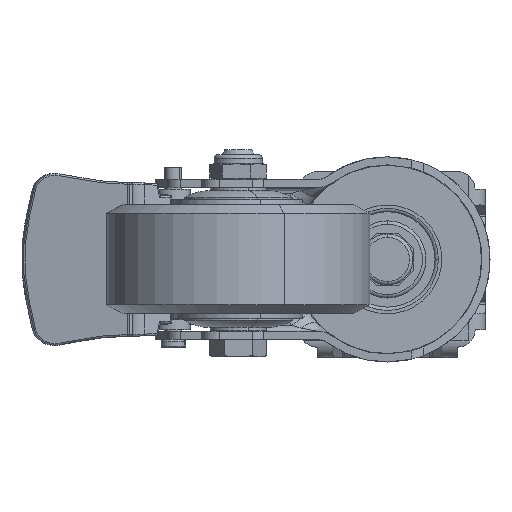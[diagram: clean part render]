
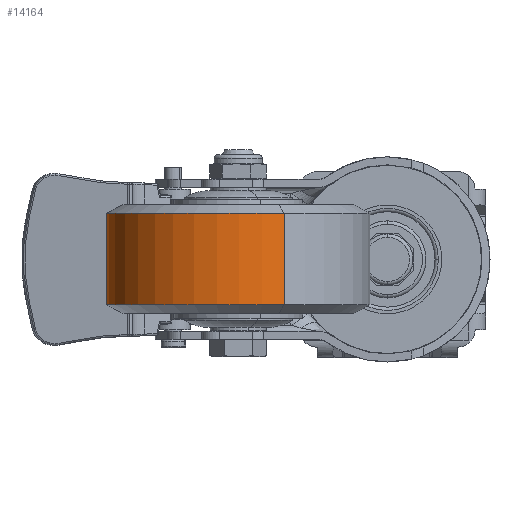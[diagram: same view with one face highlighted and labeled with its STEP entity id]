
A CAD part, front view. The second image highlights one B-rep face of the part: STEP entity #14164.
In plain terms, the highlighted cylindrical face has radius 37.5 mm (diameter 75 mm), a partial arc.
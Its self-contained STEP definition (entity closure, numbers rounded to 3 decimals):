
#1883 = VERTEX_POINT ( 'NONE', #31630 ) ;
#3849 = DIRECTION ( 'NONE',  ( -1., 0., 0. ) ) ;
#3943 = DIRECTION ( 'NONE',  ( 1., 0., 0. ) ) ;
#5288 = FACE_OUTER_BOUND ( 'NONE', #10411, .T. ) ;
#5924 = CARTESIAN_POINT ( 'NONE',  ( -13., 0., 0. ) ) ;
#7705 = ORIENTED_EDGE ( 'NONE', *, *, #41469, .T. ) ;
#10411 = EDGE_LOOP ( 'NONE', ( #38320, #35748, #7705, #40084 ) ) ;
#10677 = DIRECTION ( 'NONE',  ( -1., 0., 0. ) ) ;
#11824 = AXIS2_PLACEMENT_3D ( 'NONE', #16874, #46466, #12210 ) ;
#11934 = VERTEX_POINT ( 'NONE', #27823 ) ;
#12210 = DIRECTION ( 'NONE',  ( 0., 0., -1. ) ) ;
#14164 = ADVANCED_FACE ( 'NONE', ( #5288 ), #20828, .T. ) ;
#16874 = CARTESIAN_POINT ( 'NONE',  ( 0., 0., 0. ) ) ;
#17123 = VECTOR ( 'NONE', #10677, 1000. ) ;
#18752 = DIRECTION ( 'NONE',  ( 0., 0., -1. ) ) ;
#20828 = CYLINDRICAL_SURFACE ( 'NONE', #11824, 37.5 ) ;
#20982 = DIRECTION ( 'NONE',  ( 0., 0., -1. ) ) ;
#21005 = AXIS2_PLACEMENT_3D ( 'NONE', #21710, #3943, #18752 ) ;
#21710 = CARTESIAN_POINT ( 'NONE',  ( 13., 0., 0. ) ) ;
#21863 = CARTESIAN_POINT ( 'NONE',  ( 0., 0., -37.5 ) ) ;
#22385 = CARTESIAN_POINT ( 'NONE',  ( 13., 0., -37.5 ) ) ;
#22542 = CIRCLE ( 'NONE', #21005, 37.5 ) ;
#22545 = EDGE_CURVE ( 'NONE', #1883, #11934, #41954, .T. ) ;
#24428 = DIRECTION ( 'NONE',  ( 1., 0., 0. ) ) ;
#27183 = CARTESIAN_POINT ( 'NONE',  ( 13., 0., 37.5 ) ) ;
#27823 = CARTESIAN_POINT ( 'NONE',  ( -13., 0., 37.5 ) ) ;
#28362 = EDGE_CURVE ( 'NONE', #47905, #40675, #22542, .T. ) ;
#29162 = LINE ( 'NONE', #47640, #17123 ) ;
#30919 = AXIS2_PLACEMENT_3D ( 'NONE', #5924, #24428, #20982 ) ;
#31630 = CARTESIAN_POINT ( 'NONE',  ( -13., 0., -37.5 ) ) ;
#31962 = VECTOR ( 'NONE', #3849, 1000. ) ;
#35748 = ORIENTED_EDGE ( 'NONE', *, *, #28362, .F. ) ;
#36901 = EDGE_CURVE ( 'NONE', #40675, #11934, #29162, .T. ) ;
#37891 = LINE ( 'NONE', #21863, #31962 ) ;
#38320 = ORIENTED_EDGE ( 'NONE', *, *, #36901, .F. ) ;
#40084 = ORIENTED_EDGE ( 'NONE', *, *, #22545, .T. ) ;
#40675 = VERTEX_POINT ( 'NONE', #27183 ) ;
#41469 = EDGE_CURVE ( 'NONE', #47905, #1883, #37891, .T. ) ;
#41954 = CIRCLE ( 'NONE', #30919, 37.5 ) ;
#46466 = DIRECTION ( 'NONE',  ( -1., 0., 0. ) ) ;
#47640 = CARTESIAN_POINT ( 'NONE',  ( 0., 0., 37.5 ) ) ;
#47905 = VERTEX_POINT ( 'NONE', #22385 ) ;
